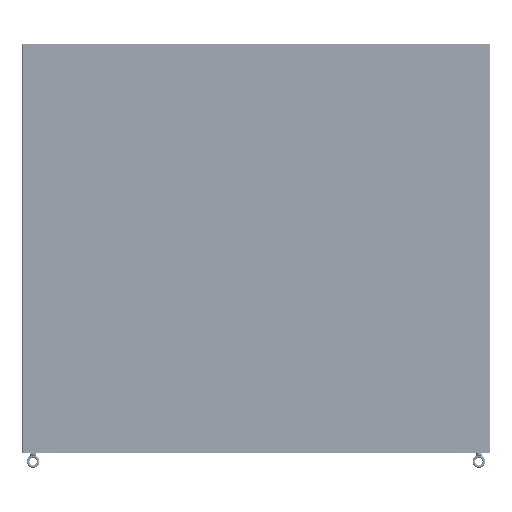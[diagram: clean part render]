
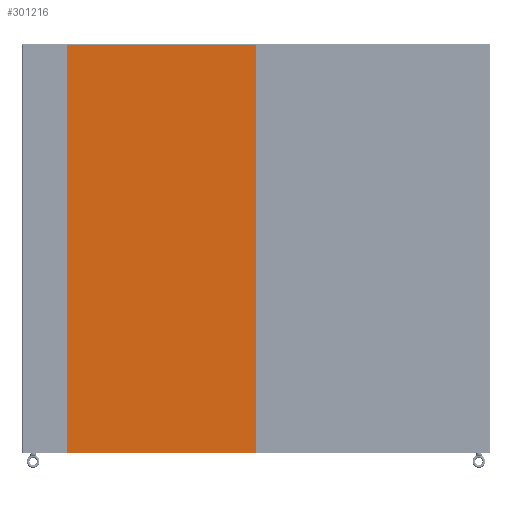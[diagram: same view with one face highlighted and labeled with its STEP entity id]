
A CAD part, left-side view. The second image highlights one B-rep face of the part: STEP entity #301216.
In plain terms, the highlighted planar face has unit normal (-1, 0, 0) as drawn and (0, 0, -1) by its records, which use the part's own axes.
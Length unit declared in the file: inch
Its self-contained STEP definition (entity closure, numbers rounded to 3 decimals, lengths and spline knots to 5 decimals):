
#300910=CARTESIAN_POINT('',(-15.6475,33.856,-0.104));
#300911=DIRECTION('',(0.,0.,-1.));
#300912=DIRECTION('',(-1.,0.,0.));
#300913=AXIS2_PLACEMENT_3D('',#300910,#300911,#300912);
#300918=DIRECTION('',(0.,-1.,0.));
#300919=VECTOR('',#300918,67.712);
#300920=CARTESIAN_POINT('',(-15.6875,33.856,-0.104));
#300921=LINE('',#300920,#300919);
#300925=CARTESIAN_POINT('',(-15.6475,-33.856,-0.104));
#300926=DIRECTION('',(0.,0.,-1.));
#300927=DIRECTION('',(0.,-1.,0.));
#300928=AXIS2_PLACEMENT_3D('',#300925,#300926,#300927);
#300933=DIRECTION('',(1.,0.,0.));
#300934=VECTOR('',#300933,31.295);
#300935=CARTESIAN_POINT('',(-15.6475,-33.896,-0.104));
#300936=LINE('',#300935,#300934);
#300940=CARTESIAN_POINT('',(15.6475,-33.856,-0.104));
#300941=DIRECTION('',(0.,0.,-1.));
#300942=DIRECTION('',(1.,0.,0.));
#300943=AXIS2_PLACEMENT_3D('',#300940,#300941,#300942);
#300948=DIRECTION('',(0.,1.,0.));
#300949=VECTOR('',#300948,67.712);
#300950=CARTESIAN_POINT('',(15.6875,-33.856,-0.104));
#300951=LINE('',#300950,#300949);
#300955=CARTESIAN_POINT('',(15.6475,33.856,-0.104));
#300956=DIRECTION('',(0.,0.,-1.));
#300957=DIRECTION('',(0.,1.,0.));
#300958=AXIS2_PLACEMENT_3D('',#300955,#300956,#300957);
#300963=DIRECTION('',(-1.,0.,0.));
#300964=VECTOR('',#300963,31.295);
#300965=CARTESIAN_POINT('',(15.6475,33.896,-0.104));
#300966=LINE('',#300965,#300964);
#300974=CARTESIAN_POINT('',(-15.6875,33.856,-0.104));
#300975=VERTEX_POINT('',#300974);
#300976=CARTESIAN_POINT('',(-15.6475,33.896,-0.104));
#300977=VERTEX_POINT('',#300976);
#300982=CARTESIAN_POINT('',(-15.6475,-33.896,-0.104));
#300983=VERTEX_POINT('',#300982);
#300984=CARTESIAN_POINT('',(-15.6875,-33.856,-0.104));
#300985=VERTEX_POINT('',#300984);
#300990=CARTESIAN_POINT('',(15.6475,33.896,-0.104));
#300991=VERTEX_POINT('',#300990);
#300992=CARTESIAN_POINT('',(15.6475,-33.896,-0.104));
#300993=VERTEX_POINT('',#300992);
#300996=CARTESIAN_POINT('',(15.6875,33.856,-0.104));
#300997=VERTEX_POINT('',#300996);
#301000=CARTESIAN_POINT('',(15.6875,-33.856,-0.104));
#301001=VERTEX_POINT('',#301000);
#301201=CARTESIAN_POINT('',(0.,0.,-0.104));
#301202=DIRECTION('',(0.,0.,1.));
#301203=DIRECTION('',(1.,0.,0.));
#301204=AXIS2_PLACEMENT_3D('',#301201,#301202,#301203);
#301205=PLANE('',#301204);
#301206=ORIENTED_EDGE('',*,*,#301041,.F.);
#301207=ORIENTED_EDGE('',*,*,#301064,.T.);
#301208=ORIENTED_EDGE('',*,*,#301084,.F.);
#301209=ORIENTED_EDGE('',*,*,#301106,.T.);
#301210=ORIENTED_EDGE('',*,*,#301126,.F.);
#301211=ORIENTED_EDGE('',*,*,#301146,.T.);
#301212=ORIENTED_EDGE('',*,*,#301168,.F.);
#301213=ORIENTED_EDGE('',*,*,#301187,.T.);
#301214=EDGE_LOOP('',(#301206,#301207,#301208,#301209,#301210,#301211,#301212,
#301213));
#301215=FACE_OUTER_BOUND('',#301214,.F.);
#300914=CIRCLE('',#300913,0.04);
#300929=CIRCLE('',#300928,0.04);
#300944=CIRCLE('',#300943,0.04);
#300959=CIRCLE('',#300958,0.04);
#301041=EDGE_CURVE('',#300975,#300977,#300914,.T.);
#301064=EDGE_CURVE('',#300975,#300985,#300921,.T.);
#301084=EDGE_CURVE('',#300983,#300985,#300929,.T.);
#301106=EDGE_CURVE('',#300983,#300993,#300936,.T.);
#301126=EDGE_CURVE('',#301001,#300993,#300944,.T.);
#301146=EDGE_CURVE('',#301001,#300997,#300951,.T.);
#301168=EDGE_CURVE('',#300991,#300997,#300959,.T.);
#301187=EDGE_CURVE('',#300991,#300977,#300966,.T.);
#301216=ADVANCED_FACE('',(#301215),#301205,.F.);
